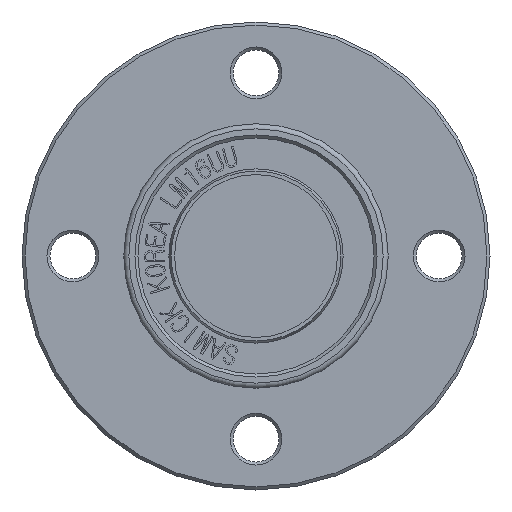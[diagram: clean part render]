
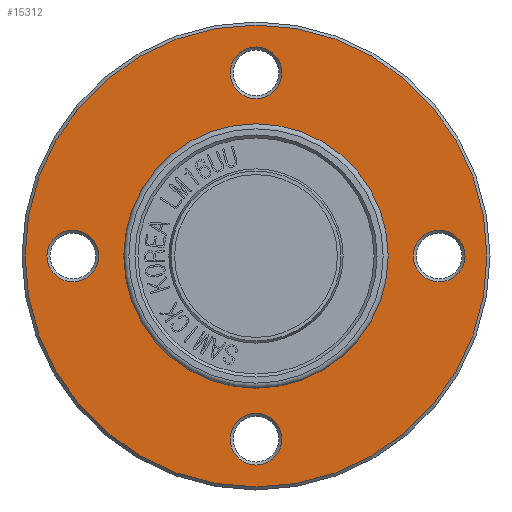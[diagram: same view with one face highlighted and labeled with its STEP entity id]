
A CAD part, front view. The second image highlights one B-rep face of the part: STEP entity #15312.
In plain terms, the highlighted planar face has unit normal (0, -1, 0).
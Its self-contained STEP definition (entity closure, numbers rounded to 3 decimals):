
#2196=FACE_BOUND('',#3342,.T.);
#2197=FACE_BOUND('',#3343,.T.);
#2198=FACE_BOUND('',#3344,.T.);
#2199=FACE_BOUND('',#3345,.T.);
#2200=FACE_BOUND('',#3346,.T.);
#2256=PLANE('',#16203);
#2491=FACE_OUTER_BOUND('',#3341,.T.);
#3341=EDGE_LOOP('',(#10586,#10587));
#3342=EDGE_LOOP('',(#10588));
#3343=EDGE_LOOP('',(#10589));
#3344=EDGE_LOOP('',(#10590,#10591));
#3345=EDGE_LOOP('',(#10592));
#3346=EDGE_LOOP('',(#10593));
#6501=CIRCLE('',#16201,2.55);
#6503=CIRCLE('',#16204,22.7);
#6504=CIRCLE('',#16205,22.7);
#6505=CIRCLE('',#16206,2.55);
#6506=CIRCLE('',#16207,2.55);
#6507=CIRCLE('',#16208,13.);
#6508=CIRCLE('',#16209,13.);
#6509=CIRCLE('',#16210,2.55);
#6583=VERTEX_POINT('',#18374);
#6585=VERTEX_POINT('',#18380);
#6586=VERTEX_POINT('',#18381);
#6587=VERTEX_POINT('',#18384);
#6588=VERTEX_POINT('',#18386);
#6589=VERTEX_POINT('',#18388);
#6590=VERTEX_POINT('',#18389);
#6591=VERTEX_POINT('',#18392);
#8183=EDGE_CURVE('',#6583,#6583,#6501,.T.);
#8186=EDGE_CURVE('',#6585,#6586,#6503,.T.);
#8187=EDGE_CURVE('',#6586,#6585,#6504,.T.);
#8188=EDGE_CURVE('',#6587,#6587,#6505,.T.);
#8189=EDGE_CURVE('',#6588,#6588,#6506,.T.);
#8190=EDGE_CURVE('',#6589,#6590,#6507,.T.);
#8191=EDGE_CURVE('',#6590,#6589,#6508,.T.);
#8192=EDGE_CURVE('',#6591,#6591,#6509,.T.);
#10586=ORIENTED_EDGE('',*,*,#8186,.T.);
#10587=ORIENTED_EDGE('',*,*,#8187,.T.);
#10588=ORIENTED_EDGE('',*,*,#8188,.F.);
#10589=ORIENTED_EDGE('',*,*,#8189,.F.);
#10590=ORIENTED_EDGE('',*,*,#8190,.F.);
#10591=ORIENTED_EDGE('',*,*,#8191,.F.);
#10592=ORIENTED_EDGE('',*,*,#8192,.F.);
#10593=ORIENTED_EDGE('',*,*,#8183,.F.);
#15312=ADVANCED_FACE('',(#2491,#2196,#2197,#2198,#2199,#2200),#2256,.T.);
#16201=AXIS2_PLACEMENT_3D('',#18375,#16584,#16585);
#16203=AXIS2_PLACEMENT_3D('',#18379,#16589,#16590);
#16204=AXIS2_PLACEMENT_3D('',#18382,#16591,#16592);
#16205=AXIS2_PLACEMENT_3D('',#18383,#16593,#16594);
#16206=AXIS2_PLACEMENT_3D('',#18385,#16595,#16596);
#16207=AXIS2_PLACEMENT_3D('',#18387,#16597,#16598);
#16208=AXIS2_PLACEMENT_3D('',#18390,#16599,#16600);
#16209=AXIS2_PLACEMENT_3D('',#18391,#16601,#16602);
#16210=AXIS2_PLACEMENT_3D('',#18393,#16603,#16604);
#16584=DIRECTION('center_axis',(0.,-1.,0.));
#16585=DIRECTION('ref_axis',(0.,0.,-1.));
#16589=DIRECTION('center_axis',(0.,-1.,0.));
#16590=DIRECTION('ref_axis',(0.,0.,-1.));
#16591=DIRECTION('center_axis',(0.,-1.,0.));
#16592=DIRECTION('ref_axis',(1.,0.,0.));
#16593=DIRECTION('center_axis',(0.,-1.,0.));
#16594=DIRECTION('ref_axis',(1.,0.,0.));
#16595=DIRECTION('center_axis',(0.,-1.,0.));
#16596=DIRECTION('ref_axis',(1.,0.,0.));
#16597=DIRECTION('center_axis',(0.,-1.,0.));
#16598=DIRECTION('ref_axis',(-1.,0.,0.));
#16599=DIRECTION('center_axis',(0.,-1.,0.));
#16600=DIRECTION('ref_axis',(1.,0.,0.));
#16601=DIRECTION('center_axis',(0.,-1.,0.));
#16602=DIRECTION('ref_axis',(1.,0.,0.));
#16603=DIRECTION('center_axis',(0.,-1.,0.));
#16604=DIRECTION('ref_axis',(0.,0.,
1.));
#18374=CARTESIAN_POINT('',(0.,23.,-15.45));
#18375=CARTESIAN_POINT('Origin',(0.,23.,-18.));
#18379=CARTESIAN_POINT('Origin',(13.,23.,0.));
#18380=CARTESIAN_POINT('',(22.7,23.,0.));
#18381=CARTESIAN_POINT('',(-22.7,23.,0.));
#18382=CARTESIAN_POINT('Origin',(0.,23.,0.));
#18383=CARTESIAN_POINT('Origin',(0.,23.,0.));
#18384=CARTESIAN_POINT('',(15.45,23.,0.));
#18385=CARTESIAN_POINT('Origin',(18.,23.,0.));
#18386=CARTESIAN_POINT('',(-15.45,23.,0.));
#18387=CARTESIAN_POINT('Origin',(-18.,23.,0.));
#18388=CARTESIAN_POINT('',(13.,23.,0.));
#18389=CARTESIAN_POINT('',(-13.,23.,0.));
#18390=CARTESIAN_POINT('Origin',(0.,23.,0.));
#18391=CARTESIAN_POINT('Origin',(0.,23.,0.));
#18392=CARTESIAN_POINT('',(0.,23.,15.45));
#18393=CARTESIAN_POINT('Origin',(0.,23.,18.));
